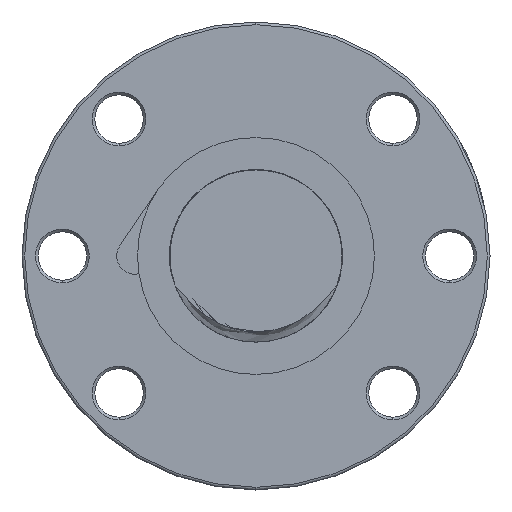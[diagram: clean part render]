
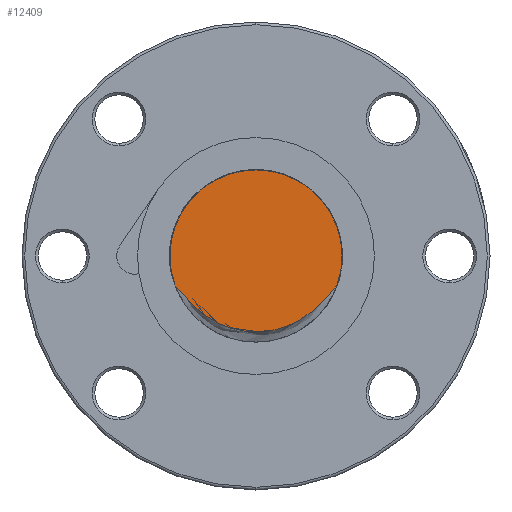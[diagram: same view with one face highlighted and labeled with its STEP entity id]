
A CAD part, left-side view. The second image highlights one B-rep face of the part: STEP entity #12409.
In plain terms, the highlighted planar face has unit normal (-1, 0, 0).
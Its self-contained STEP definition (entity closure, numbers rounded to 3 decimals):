
#11519 = EDGE_CURVE ( 'NONE', #11520, #11521, #16033, .T. ) ;
#11520 = VERTEX_POINT ( 'NONE', #16029 ) ;
#11521 = VERTEX_POINT ( 'NONE', #16028 ) ;
#11724 = EDGE_CURVE ( 'NONE', #11521, #11725, #18388, .T. ) ;
#11725 = VERTEX_POINT ( 'NONE', #18389 ) ;
#12409 = ADVANCED_FACE ( 'NONE', ( #21131 ), #21126, .F. ) ;
#12410 = EDGE_LOOP ( 'NONE', ( #12411, #12412, #12414 ) ) ;
#12411 = ORIENTED_EDGE ( 'NONE', *, *, #11519, .F. ) ;
#12412 = ORIENTED_EDGE ( 'NONE', *, *, #12413, .T. ) ;
#12413 = EDGE_CURVE ( 'NONE', #11520, #11725, #21120, .T. ) ;
#12414 = ORIENTED_EDGE ( 'NONE', *, *, #11724, .F. ) ;
#16028 = CARTESIAN_POINT ( 'NONE',  ( -147., 0., 16. ) ) ;
#16029 = CARTESIAN_POINT ( 'NONE',  ( -147., 15.066, -5.388 ) ) ;
#16030 = DIRECTION ( 'NONE',  ( 0., 1., 0. ) ) ;
#16031 = DIRECTION ( 'NONE',  ( 1., 0., 0. ) ) ;
#16032 = AXIS2_PLACEMENT_3D ( 'NONE', #16038, #16031, #16030 ) ;
#16033 = CIRCLE ( 'NONE', #16032, 16. ) ;
#16038 = CARTESIAN_POINT ( 'NONE',  ( -147., 0., 0. ) ) ;
#18385 = DIRECTION ( 'NONE',  ( 0., 1., 0. ) ) ;
#18386 = DIRECTION ( 'NONE',  ( 1., 0., 0. ) ) ;
#18387 = AXIS2_PLACEMENT_3D ( 'NONE', #18394, #18386, #18385 ) ;
#18388 = CIRCLE ( 'NONE', #18387, 16. ) ;
#18389 = CARTESIAN_POINT ( 'NONE',  ( -147., -15.066, -5.387 ) ) ;
#18394 = CARTESIAN_POINT ( 'NONE',  ( -147., 0., 0. ) ) ;
#21116 = CARTESIAN_POINT ( 'NONE',  ( -147., 14.794, -5.649 ) ) ;
#21117 = CARTESIAN_POINT ( 'NONE',  ( -147., 14.923, -5.512 ) ) ;
#21118 = CARTESIAN_POINT ( 'NONE',  ( -147., 15.066, -5.388 ) ) ;
#21120 = B_SPLINE_CURVE_WITH_KNOTS ( 'NONE', 3,
 ( #21118, #21117, #21116, #21274, #21273, #21272, #21270, #21268, #21267, #21266, #21265, #21264, #21263, #21262, #21261, #21259, #21258, #21257, #21256, #21255, #21254, #21253, #21252, #21251, #21250, #21249, #21248, #21247, #21246, #21245, #21244, #21243, #21242, #21241, #21240, #21239, #21238, #21237, #21236, #21235, #21234, #21233, #21232, #21231 ),
 .UNSPECIFIED., .F., .F.,
 ( 4, 2, 2, 2, 2, 2, 2, 2, 2, 2, 2, 2, 2, 2, 2, 2, 2, 2, 2, 2, 2, 4 ),
 ( 0.014, 0.015, 0.015, 0.017, 0.019, 0.021, 0.023, 0.025, 0.027, 0.028, 0.03, 0.031, 0.032, 0.037, 0.041, 0.042, 0.043, 0.046, 0.048, 0.049, 0.05, 0.05 ),
 .UNSPECIFIED. ) ;
#21122 = DIRECTION ( 'NONE',  ( 0., 0., -1. ) ) ;
#21123 = DIRECTION ( 'NONE',  ( 1., 0., 0. ) ) ;
#21124 = CARTESIAN_POINT ( 'NONE',  ( -147., 0., 0. ) ) ;
#21125 = AXIS2_PLACEMENT_3D ( 'NONE', #21124, #21123, #21122 ) ;
#21126 = PLANE ( 'NONE',  #21125 ) ;
#21131 = FACE_OUTER_BOUND ( 'NONE', #12410, .T. ) ;
#21231 = CARTESIAN_POINT ( 'NONE',  ( -147., -15.066, -5.387 ) ) ;
#21232 = CARTESIAN_POINT ( 'NONE',  ( -147., -14.923, -5.512 ) ) ;
#21233 = CARTESIAN_POINT ( 'NONE',  ( -147., -14.793, -5.65 ) ) ;
#21234 = CARTESIAN_POINT ( 'NONE',  ( -147., -14.54, -5.931 ) ) ;
#21235 = CARTESIAN_POINT ( 'NONE',  ( -147., -14.417, -6.076 ) ) ;
#21236 = CARTESIAN_POINT ( 'NONE',  ( -147., -14.052, -6.512 ) ) ;
#21237 = CARTESIAN_POINT ( 'NONE',  ( -147., -13.813, -6.806 ) ) ;
#21238 = CARTESIAN_POINT ( 'NONE',  ( -147., -13.085, -7.68 ) ) ;
#21239 = CARTESIAN_POINT ( 'NONE',  ( -147., -12.583, -8.251 ) ) ;
#21240 = CARTESIAN_POINT ( 'NONE',  ( -147., -11.527, -9.333 ) ) ;
#21241 = CARTESIAN_POINT ( 'NONE',  ( -147., -10.972, -9.846 ) ) ;
#21242 = CARTESIAN_POINT ( 'NONE',  ( -147., -10.095, -10.562 ) ) ;
#21243 = CARTESIAN_POINT ( 'NONE',  ( -147., -9.796, -10.792 ) ) ;
#21244 = CARTESIAN_POINT ( 'NONE',  ( -147., -9.18, -11.235 ) ) ;
#21245 = CARTESIAN_POINT ( 'NONE',  ( -147., -8.864, -11.446 ) ) ;
#21246 = CARTESIAN_POINT ( 'NONE',  ( -147., -7.262, -12.443 ) ) ;
#21247 = CARTESIAN_POINT ( 'NONE',  ( -147., -5.893, -13.059 ) ) ;
#21248 = CARTESIAN_POINT ( 'NONE',  ( -147., -2.975, -13.909 ) ) ;
#21249 = CARTESIAN_POINT ( 'NONE',  ( -147., -1.491, -14.121 ) ) ;
#21250 = CARTESIAN_POINT ( 'NONE',  ( -147., 0.395, -14.117 ) ) ;
#21251 = CARTESIAN_POINT ( 'NONE',  ( -147., 0.775, -14.103 ) ) ;
#21252 = CARTESIAN_POINT ( 'NONE',  ( -147., 1.531, -14.047 ) ) ;
#21253 = CARTESIAN_POINT ( 'NONE',  ( -147., 1.906, -14.006 ) ) ;
#21254 = CARTESIAN_POINT ( 'NONE',  ( -147., 3.022, -13.845 ) ) ;
#21255 = CARTESIAN_POINT ( 'NONE',  ( -147., 3.754, -13.685 ) ) ;
#21256 = CARTESIAN_POINT ( 'NONE',  ( -147., 4.834, -13.369 ) ) ;
#21257 = CARTESIAN_POINT ( 'NONE',  ( -147., 5.192, -13.25 ) ) ;
#21258 = CARTESIAN_POINT ( 'NONE',  ( -147., 5.9, -12.986 ) ) ;
#21259 = CARTESIAN_POINT ( 'NONE',  ( -147., 6.253, -12.841 ) ) ;
#21261 = CARTESIAN_POINT ( 'NONE',  ( -147., 7.285, -12.373 ) ) ;
#21262 = CARTESIAN_POINT ( 'NONE',  ( -147., 7.944, -12.018 ) ) ;
#21263 = CARTESIAN_POINT ( 'NONE',  ( -147., 9.21, -11.227 ) ) ;
#21264 = CARTESIAN_POINT ( 'NONE',  ( -147., 9.816, -10.792 ) ) ;
#21265 = CARTESIAN_POINT ( 'NONE',  ( -147., 10.977, -9.844 ) ) ;
#21266 = CARTESIAN_POINT ( 'NONE',  ( -147., 11.534, -9.328 ) ) ;
#21267 = CARTESIAN_POINT ( 'NONE',  ( -147., 12.59, -8.243 ) ) ;
#21268 = CARTESIAN_POINT ( 'NONE',  ( -147., 13.088, -7.674 ) ) ;
#21270 = CARTESIAN_POINT ( 'NONE',  ( -147., 13.814, -6.802 ) ) ;
#21272 = CARTESIAN_POINT ( 'NONE',  ( -147., 14.053, -6.508 ) ) ;
#21273 = CARTESIAN_POINT ( 'NONE',  ( -147., 14.418, -6.074 ) ) ;
#21274 = CARTESIAN_POINT ( 'NONE',  ( -147., 14.541, -5.93 ) ) ;
